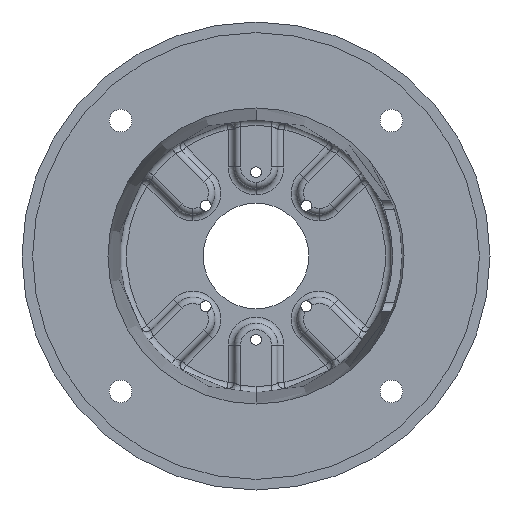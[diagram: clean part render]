
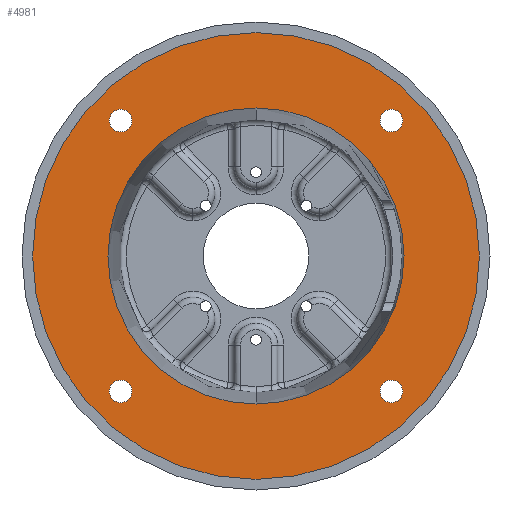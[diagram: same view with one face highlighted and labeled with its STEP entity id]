
A CAD part, front view. The second image highlights one B-rep face of the part: STEP entity #4981.
In plain terms, the highlighted planar face has unit normal (0, -1, 0).
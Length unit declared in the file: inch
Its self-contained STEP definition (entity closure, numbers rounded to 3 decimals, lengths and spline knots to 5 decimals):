
#212 = AXIS2_PLACEMENT_3D ( 'NONE', #5097, #12797, #6198 ) ;
#337 = CIRCLE ( 'NONE', #12376, 0.26562 ) ;
#346 = DIRECTION ( 'NONE',  ( 0., -1., 0. ) ) ;
#531 = VERTEX_POINT ( 'NONE', #7210 ) ;
#868 = VERTEX_POINT ( 'NONE', #4430 ) ;
#978 = CARTESIAN_POINT ( 'NONE',  ( -3.18198, 0.18, -3.18198 ) ) ;
#1073 = CARTESIAN_POINT ( 'NONE',  ( 0., 0.18, 5.2505 ) ) ;
#1120 = CARTESIAN_POINT ( 'NONE',  ( -3.18198, 0.18, 3.18198 ) ) ;
#1375 = FACE_BOUND ( 'NONE', #9862, .T. ) ;
#1451 = AXIS2_PLACEMENT_3D ( 'NONE', #978, #8739, #2118 ) ;
#1578 = DIRECTION ( 'NONE',  ( 0., -1., 0. ) ) ;
#1603 = CARTESIAN_POINT ( 'NONE',  ( 3.18198, 0.18, 2.91636 ) ) ;
#1720 = FACE_BOUND ( 'NONE', #2044, .T. ) ;
#1890 = VERTEX_POINT ( 'NONE', #1073 ) ;
#2044 = EDGE_LOOP ( 'NONE', ( #6638, #13301 ) ) ;
#2118 = DIRECTION ( 'NONE',  ( 0., 0., -1. ) ) ;
#2219 = EDGE_LOOP ( 'NONE', ( #13853, #12777 ) ) ;
#2248 = DIRECTION ( 'NONE',  ( 0., 0., -1. ) ) ;
#2470 = DIRECTION ( 'NONE',  ( 0., -1., 0. ) ) ;
#2513 = DIRECTION ( 'NONE',  ( 0., 1., 0. ) ) ;
#2647 = DIRECTION ( 'NONE',  ( 0., -1., 0. ) ) ;
#2744 = DIRECTION ( 'NONE',  ( 0., 1., 0. ) ) ;
#2766 = ORIENTED_EDGE ( 'NONE', *, *, #9187, .F. ) ;
#2892 = CIRCLE ( 'NONE', #10689, 0.26562 ) ;
#3331 = CIRCLE ( 'NONE', #5353, 0.26562 ) ;
#3376 = AXIS2_PLACEMENT_3D ( 'NONE', #9355, #2744, #10473 ) ;
#3391 = CIRCLE ( 'NONE', #9557, 5.2505 ) ;
#3403 = CARTESIAN_POINT ( 'NONE',  ( 0., 0.18, 3.47973 ) ) ;
#3752 = CIRCLE ( 'NONE', #1451, 0.26562 ) ;
#3837 = ORIENTED_EDGE ( 'NONE', *, *, #9258, .F. ) ;
#4023 = EDGE_CURVE ( 'NONE', #10832, #531, #12701, .T. ) ;
#4102 = ORIENTED_EDGE ( 'NONE', *, *, #4023, .T. ) ;
#4136 = CIRCLE ( 'NONE', #5342, 0.26562 ) ;
#4354 = VERTEX_POINT ( 'NONE', #7507 ) ;
#4356 = FACE_OUTER_BOUND ( 'NONE', #8882, .T. ) ;
#4430 = CARTESIAN_POINT ( 'NONE',  ( -3.18198, 0.18, -2.91636 ) ) ;
#4453 = EDGE_CURVE ( 'NONE', #4834, #13283, #11847, .T. ) ;
#4722 = DIRECTION ( 'NONE',  ( 0., -1., 0. ) ) ;
#4784 = AXIS2_PLACEMENT_3D ( 'NONE', #7008, #346, #8105 ) ;
#4834 = VERTEX_POINT ( 'NONE', #5230 ) ;
#4960 = EDGE_CURVE ( 'NONE', #6266, #1890, #13498, .T. ) ;
#4981 = ADVANCED_FACE ( 'NONE', ( #1720, #7273, #10203, #7631, #4356, #1375 ), #7048, .T. ) ;
#4996 = CARTESIAN_POINT ( 'NONE',  ( -3.18198, 0.18, -3.18198 ) ) ;
#5097 = CARTESIAN_POINT ( 'NONE',  ( 3.18198, 0.18, -3.18198 ) ) ;
#5230 = CARTESIAN_POINT ( 'NONE',  ( -3.18198, 0.18, 2.91636 ) ) ;
#5342 = AXIS2_PLACEMENT_3D ( 'NONE', #1120, #8875, #2248 ) ;
#5353 = AXIS2_PLACEMENT_3D ( 'NONE', #5367, #13061, #6464 ) ;
#5367 = CARTESIAN_POINT ( 'NONE',  ( 3.18198, 0.18, 3.18198 ) ) ;
#5668 = CARTESIAN_POINT ( 'NONE',  ( 0., 0.18, -5.2505 ) ) ;
#5938 = ORIENTED_EDGE ( 'NONE', *, *, #13014, .T. ) ;
#6102 = DIRECTION ( 'NONE',  ( 0., 0., -1. ) ) ;
#6198 = DIRECTION ( 'NONE',  ( 0., 0., -1. ) ) ;
#6266 = VERTEX_POINT ( 'NONE', #5668 ) ;
#6429 = CIRCLE ( 'NONE', #6543, 0.26562 ) ;
#6464 = DIRECTION ( 'NONE',  ( 0., 0., -1. ) ) ;
#6543 = AXIS2_PLACEMENT_3D ( 'NONE', #11331, #4722, #12431 ) ;
#6590 = DIRECTION ( 'NONE',  ( 0., -1., 0. ) ) ;
#6638 = ORIENTED_EDGE ( 'NONE', *, *, #4453, .F. ) ;
#7008 = CARTESIAN_POINT ( 'NONE',  ( 0., 0.18, 0. ) ) ;
#7048 = PLANE ( 'NONE',  #10694 ) ;
#7210 = CARTESIAN_POINT ( 'NONE',  ( 0., 0.18, -3.47973 ) ) ;
#7273 = FACE_BOUND ( 'NONE', #13763, .T. ) ;
#7507 = CARTESIAN_POINT ( 'NONE',  ( 3.18198, 0.18, 3.44761 ) ) ;
#7517 = ORIENTED_EDGE ( 'NONE', *, *, #8011, .F. ) ;
#7631 = FACE_BOUND ( 'NONE', #2219, .T. ) ;
#7673 = VERTEX_POINT ( 'NONE', #8707 ) ;
#8011 = EDGE_CURVE ( 'NONE', #4354, #11436, #3331, .T. ) ;
#8105 = DIRECTION ( 'NONE',  ( 0., 0., -1. ) ) ;
#8139 = CIRCLE ( 'NONE', #212, 0.26562 ) ;
#8173 = ORIENTED_EDGE ( 'NONE', *, *, #4960, .T. ) ;
#8208 = CARTESIAN_POINT ( 'NONE',  ( 3.18198, 0.18, -3.18198 ) ) ;
#8319 = EDGE_CURVE ( 'NONE', #11436, #4354, #6429, .T. ) ;
#8503 = CARTESIAN_POINT ( 'NONE',  ( -3.18198, 0.18, -3.44761 ) ) ;
#8527 = VERTEX_POINT ( 'NONE', #8503 ) ;
#8707 = CARTESIAN_POINT ( 'NONE',  ( 3.18198, 0.18, -3.44761 ) ) ;
#8739 = DIRECTION ( 'NONE',  ( 0., -1., 0. ) ) ;
#8875 = DIRECTION ( 'NONE',  ( 0., -1., 0. ) ) ;
#8882 = EDGE_LOOP ( 'NONE', ( #8173, #9318 ) ) ;
#9082 = CARTESIAN_POINT ( 'NONE',  ( 0., 0.18, 0. ) ) ;
#9126 = CARTESIAN_POINT ( 'NONE',  ( 0., 0.18, 0. ) ) ;
#9187 = EDGE_CURVE ( 'NONE', #13927, #7673, #337, .T. ) ;
#9258 = EDGE_CURVE ( 'NONE', #7673, #13927, #8139, .T. ) ;
#9310 = DIRECTION ( 'NONE',  ( 0., 0., -1. ) ) ;
#9318 = ORIENTED_EDGE ( 'NONE', *, *, #12839, .T. ) ;
#9355 = CARTESIAN_POINT ( 'NONE',  ( 0., 0.18, 0. ) ) ;
#9557 = AXIS2_PLACEMENT_3D ( 'NONE', #9082, #2470, #10183 ) ;
#9862 = EDGE_LOOP ( 'NONE', ( #5938, #4102 ) ) ;
#10183 = DIRECTION ( 'NONE',  ( 0., 0., -1. ) ) ;
#10203 = FACE_BOUND ( 'NONE', #11111, .T. ) ;
#10241 = DIRECTION ( 'NONE',  ( 0., 0., -1. ) ) ;
#10274 = ORIENTED_EDGE ( 'NONE', *, *, #8319, .F. ) ;
#10376 = DIRECTION ( 'NONE',  ( 0., 0., -1. ) ) ;
#10473 = DIRECTION ( 'NONE',  ( 0., 0., -1. ) ) ;
#10689 = AXIS2_PLACEMENT_3D ( 'NONE', #4996, #12708, #6102 ) ;
#10694 = AXIS2_PLACEMENT_3D ( 'NONE', #12561, #2647, #10376 ) ;
#10832 = VERTEX_POINT ( 'NONE', #3403 ) ;
#11111 = EDGE_LOOP ( 'NONE', ( #3837, #2766 ) ) ;
#11174 = EDGE_CURVE ( 'NONE', #868, #8527, #3752, .T. ) ;
#11331 = CARTESIAN_POINT ( 'NONE',  ( 3.18198, 0.18, 3.18198 ) ) ;
#11382 = CARTESIAN_POINT ( 'NONE',  ( -3.18198, 0.18, 3.44761 ) ) ;
#11436 = VERTEX_POINT ( 'NONE', #1603 ) ;
#11653 = CARTESIAN_POINT ( 'NONE',  ( 3.18198, 0.18, -2.91636 ) ) ;
#11847 = CIRCLE ( 'NONE', #14192, 0.26562 ) ;
#12376 = AXIS2_PLACEMENT_3D ( 'NONE', #8208, #1578, #9310 ) ;
#12431 = DIRECTION ( 'NONE',  ( 0., 0., -1. ) ) ;
#12561 = CARTESIAN_POINT ( 'NONE',  ( 0., 0.18, 0. ) ) ;
#12701 = CIRCLE ( 'NONE', #14002, 3.47973 ) ;
#12708 = DIRECTION ( 'NONE',  ( 0., -1., 0. ) ) ;
#12777 = ORIENTED_EDGE ( 'NONE', *, *, #11174, .F. ) ;
#12797 = DIRECTION ( 'NONE',  ( 0., -1., 0. ) ) ;
#12839 = EDGE_CURVE ( 'NONE', #1890, #6266, #3391, .T. ) ;
#13014 = EDGE_CURVE ( 'NONE', #531, #10832, #14088, .T. ) ;
#13061 = DIRECTION ( 'NONE',  ( 0., -1., 0. ) ) ;
#13195 = CARTESIAN_POINT ( 'NONE',  ( -3.18198, 0.18, 3.18198 ) ) ;
#13258 = EDGE_CURVE ( 'NONE', #13283, #4834, #4136, .T. ) ;
#13283 = VERTEX_POINT ( 'NONE', #11382 ) ;
#13301 = ORIENTED_EDGE ( 'NONE', *, *, #13258, .F. ) ;
#13498 = CIRCLE ( 'NONE', #4784, 5.2505 ) ;
#13763 = EDGE_LOOP ( 'NONE', ( #10274, #7517 ) ) ;
#13853 = ORIENTED_EDGE ( 'NONE', *, *, #13909, .F. ) ;
#13909 = EDGE_CURVE ( 'NONE', #8527, #868, #2892, .T. ) ;
#13927 = VERTEX_POINT ( 'NONE', #11653 ) ;
#14002 = AXIS2_PLACEMENT_3D ( 'NONE', #9126, #2513, #10241 ) ;
#14088 = CIRCLE ( 'NONE', #3376, 3.47973 ) ;
#14192 = AXIS2_PLACEMENT_3D ( 'NONE', #13195, #6590, #14298 ) ;
#14298 = DIRECTION ( 'NONE',  ( 0., 0., -1. ) ) ;
